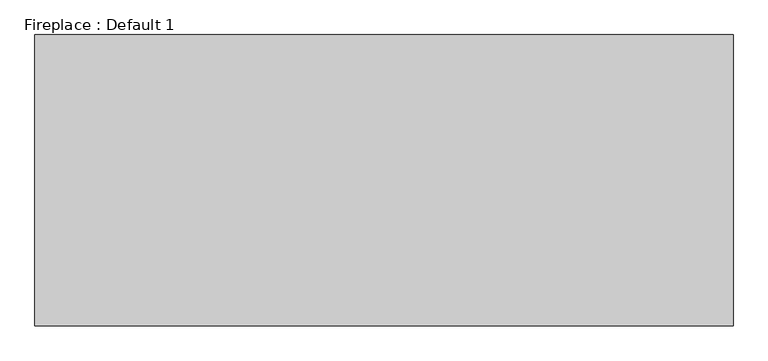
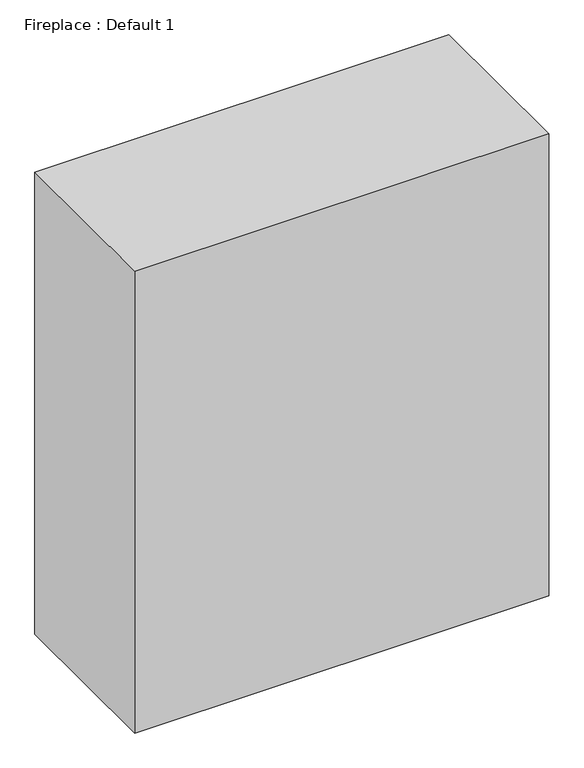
"""IFC4 building model written with IfcOpenShell, lengths in millimetres: proxy geometry, Fireplace : Default 1."""

from ifc_helpers import new_model, si_unit, origin, origin_with_axes, place, context, project, spatial, polyline, outline, extrude, source, transform, mapped, element, save


def fireplace_default_1_2b660472(model_context):
    return source(origin(), model_context, "Body", "SweptSolid", [
        extrude(outline(polyline([(936.625, -100.0), (936.625, -881.05), (-936.625, -881.05), (-936.625, -100.0), (936.625, -100.0)])), origin_with_axes(), (0.0, 0.0, 1.0), 2209.8),
    ])


if __name__ == "__main__":
    model = new_model("IFC4")
    model_context = context("Model", 3, world=origin())
    ifc_project = project(units=[si_unit("LENGTHUNIT", "METRE", prefix="MILLI")], contexts=[model_context])
    site = spatial("IfcSite", under=ifc_project)
    building = spatial("IfcBuilding", under=site)
    placement = place(None, origin())
    fireplace_default_1_shape = fireplace_default_1_2b660472(model_context)
    element("IfcBuildingElementProxy", 1, Name="Fireplace : Default 1", ObjectType="Fireplace : Default 1", at=placement, inside=building, context=model_context, shape_type="MappedRepresentation", body=[
        mapped(fireplace_default_1_shape, transform((0.0, 0.0, 0.0), x_axis=(1.0, 0.0, 0.0), y_axis=(0.0, 1.0, 0.0), z_axis=(0.0, 0.0, 1.0))),
    ])
    save(model, "model.ifc")
